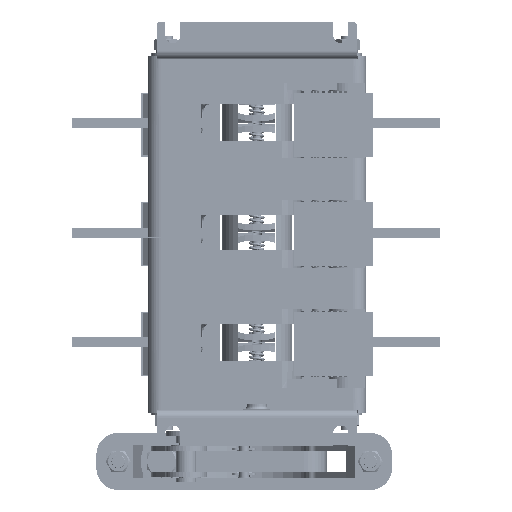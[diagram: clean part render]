
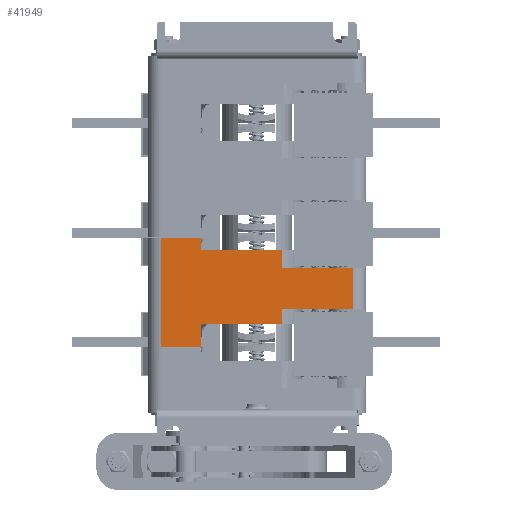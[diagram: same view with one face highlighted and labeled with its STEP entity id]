
A CAD part, front view. The second image highlights one B-rep face of the part: STEP entity #41949.
In plain terms, the highlighted planar face has unit normal (0, -1, 0).
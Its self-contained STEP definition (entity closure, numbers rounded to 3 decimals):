
#314 = CARTESIAN_POINT ( 'NONE',  ( -33., -27., -32.5 ) ) ;
#502 = DIRECTION ( 'NONE',  ( -1., 0., 0. ) ) ;
#1158 = VERTEX_POINT ( 'NONE', #20020 ) ;
#1535 = CARTESIAN_POINT ( 'NONE',  ( 15., -27., 14.5 ) ) ;
#1649 = LINE ( 'NONE', #21562, #11532 ) ;
#1730 = FACE_OUTER_BOUND ( 'NONE', #47150, .T. ) ;
#2487 = CARTESIAN_POINT ( 'NONE',  ( -33., -27., -19. ) ) ;
#2625 = CARTESIAN_POINT ( 'NONE',  ( 15., -27., -10. ) ) ;
#2700 = CARTESIAN_POINT ( 'NONE',  ( -57., -27., -32.5 ) ) ;
#3797 = VERTEX_POINT ( 'NONE', #314 ) ;
#3848 = LINE ( 'NONE', #33572, #50548 ) ;
#4320 = LINE ( 'NONE', #67855, #55454 ) ;
#5612 = ORIENTED_EDGE ( 'NONE', *, *, #53294, .F. ) ;
#5769 = VERTEX_POINT ( 'NONE', #57518 ) ;
#6611 = PLANE ( 'NONE',  #60873 ) ;
#8788 = CARTESIAN_POINT ( 'NONE',  ( -57., -27., 25. ) ) ;
#9168 = CARTESIAN_POINT ( 'NONE',  ( 57., -27., -10. ) ) ;
#11532 = VECTOR ( 'NONE', #56370, 1000. ) ;
#11658 = CARTESIAN_POINT ( 'NONE',  ( 15., -27., 14.5 ) ) ;
#12626 = DIRECTION ( 'NONE',  ( 0., 0., 1. ) ) ;
#13254 = VECTOR ( 'NONE', #29816, 1000. ) ;
#15292 = VECTOR ( 'NONE', #29967, 1000. ) ;
#15346 = VECTOR ( 'NONE', #46647, 1000. ) ;
#15674 = DIRECTION ( 'NONE',  ( -1., 0., 0. ) ) ;
#15984 = LINE ( 'NONE', #25183, #54544 ) ;
#17529 = CARTESIAN_POINT ( 'NONE',  ( -33., -27., -19. ) ) ;
#17706 = EDGE_CURVE ( 'NONE', #18740, #34488, #44248, .T. ) ;
#17762 = VECTOR ( 'NONE', #41406, 1000. ) ;
#18252 = LINE ( 'NONE', #23854, #39816 ) ;
#18545 = ORIENTED_EDGE ( 'NONE', *, *, #39458, .T. ) ;
#18657 = DIRECTION ( 'NONE',  ( 0., 0., -1. ) ) ;
#18740 = VERTEX_POINT ( 'NONE', #57688 ) ;
#20020 = CARTESIAN_POINT ( 'NONE',  ( 15., -27., 14.5 ) ) ;
#21562 = CARTESIAN_POINT ( 'NONE',  ( -33., -27., 32.5 ) ) ;
#23352 = LINE ( 'NONE', #11658, #15292 ) ;
#23854 = CARTESIAN_POINT ( 'NONE',  ( -57., -27., -32.5 ) ) ;
#23935 = CARTESIAN_POINT ( 'NONE',  ( -57., -27., 25. ) ) ;
#24351 = LINE ( 'NONE', #17529, #15346 ) ;
#24979 = ORIENTED_EDGE ( 'NONE', *, *, #58578, .F. ) ;
#25183 = CARTESIAN_POINT ( 'NONE',  ( 57., -27., 25. ) ) ;
#26941 = ORIENTED_EDGE ( 'NONE', *, *, #49489, .T. ) ;
#28376 = EDGE_CURVE ( 'NONE', #1158, #46963, #23352, .T. ) ;
#29141 = VERTEX_POINT ( 'NONE', #45393 ) ;
#29162 = VECTOR ( 'NONE', #56213, 1000. ) ;
#29816 = DIRECTION ( 'NONE',  ( 0., 0., 1. ) ) ;
#29857 = VERTEX_POINT ( 'NONE', #30764 ) ;
#29967 = DIRECTION ( 'NONE',  ( 1., 0., 0. ) ) ;
#30764 = CARTESIAN_POINT ( 'NONE',  ( -57., -27., 32.5 ) ) ;
#33572 = CARTESIAN_POINT ( 'NONE',  ( -57., -27., 25. ) ) ;
#34488 = VERTEX_POINT ( 'NONE', #2625 ) ;
#35685 = EDGE_CURVE ( 'NONE', #29141, #70542, #3848, .T. ) ;
#37575 = LINE ( 'NONE', #53614, #13254 ) ;
#37721 = LINE ( 'NONE', #8788, #71788 ) ;
#38414 = EDGE_CURVE ( 'NONE', #29857, #39584, #37721, .T. ) ;
#39299 = ORIENTED_EDGE ( 'NONE', *, *, #72445, .F. ) ;
#39458 = EDGE_CURVE ( 'NONE', #3797, #71161, #37575, .T. ) ;
#39567 = DIRECTION ( 'NONE',  ( 1., 0., 0. ) ) ;
#39584 = VERTEX_POINT ( 'NONE', #2700 ) ;
#39816 = VECTOR ( 'NONE', #502, 1000. ) ;
#41293 = ORIENTED_EDGE ( 'NONE', *, *, #67885, .F. ) ;
#41406 = DIRECTION ( 'NONE',  ( 0., 0., 1. ) ) ;
#41949 = ADVANCED_FACE ( 'NONE', ( #1730 ), #6611, .F. ) ;
#41977 = ORIENTED_EDGE ( 'NONE', *, *, #38414, .T. ) ;
#43713 = VERTEX_POINT ( 'NONE', #9168 ) ;
#44248 = LINE ( 'NONE', #61587, #60342 ) ;
#45393 = CARTESIAN_POINT ( 'NONE',  ( -33., -27., 25. ) ) ;
#46647 = DIRECTION ( 'NONE',  ( -1., 0., 0. ) ) ;
#46963 = VERTEX_POINT ( 'NONE', #50004 ) ;
#47150 = EDGE_LOOP ( 'NONE', ( #63727, #26941, #55061, #24979, #41293, #41977, #58724, #18545, #5612, #48749, #73018, #39299 ) ) ;
#48749 = ORIENTED_EDGE ( 'NONE', *, *, #17706, .T. ) ;
#49489 = EDGE_CURVE ( 'NONE', #1158, #70542, #64378, .T. ) ;
#50004 = CARTESIAN_POINT ( 'NONE',  ( 57., -27., 14.5 ) ) ;
#50548 = VECTOR ( 'NONE', #39567, 1000. ) ;
#52474 = DIRECTION ( 'NONE',  ( 0., 1., 0. ) ) ;
#53294 = EDGE_CURVE ( 'NONE', #18740, #71161, #24351, .T. ) ;
#53614 = CARTESIAN_POINT ( 'NONE',  ( -33., -27., -32.5 ) ) ;
#54544 = VECTOR ( 'NONE', #18657, 1000. ) ;
#54555 = EDGE_CURVE ( 'NONE', #3797, #39584, #18252, .T. ) ;
#54892 = DIRECTION ( 'NONE',  ( 0., 0., -1. ) ) ;
#55061 = ORIENTED_EDGE ( 'NONE', *, *, #35685, .F. ) ;
#55454 = VECTOR ( 'NONE', #15674, 1000. ) ;
#55532 = DIRECTION ( 'NONE',  ( 0., 0., 1. ) ) ;
#55695 = CARTESIAN_POINT ( 'NONE',  ( -57., -27., 32.5 ) ) ;
#56213 = DIRECTION ( 'NONE',  ( 1., 0., 0. ) ) ;
#56370 = DIRECTION ( 'NONE',  ( 0., 0., -1. ) ) ;
#57518 = CARTESIAN_POINT ( 'NONE',  ( -33., -27., 32.5 ) ) ;
#57688 = CARTESIAN_POINT ( 'NONE',  ( 15., -27., -19. ) ) ;
#58470 = CARTESIAN_POINT ( 'NONE',  ( 15., -27., 25. ) ) ;
#58578 = EDGE_CURVE ( 'NONE', #5769, #29141, #1649, .T. ) ;
#58724 = ORIENTED_EDGE ( 'NONE', *, *, #54555, .F. ) ;
#59639 = LINE ( 'NONE', #55695, #29162 ) ;
#60342 = VECTOR ( 'NONE', #55532, 1000. ) ;
#60873 = AXIS2_PLACEMENT_3D ( 'NONE', #23935, #52474, #12626 ) ;
#61587 = CARTESIAN_POINT ( 'NONE',  ( 15., -27., -19. ) ) ;
#63727 = ORIENTED_EDGE ( 'NONE', *, *, #28376, .F. ) ;
#64378 = LINE ( 'NONE', #1535, #17762 ) ;
#67855 = CARTESIAN_POINT ( 'NONE',  ( 15., -27., -10. ) ) ;
#67885 = EDGE_CURVE ( 'NONE', #29857, #5769, #59639, .T. ) ;
#69367 = EDGE_CURVE ( 'NONE', #43713, #34488, #4320, .T. ) ;
#70542 = VERTEX_POINT ( 'NONE', #58470 ) ;
#71161 = VERTEX_POINT ( 'NONE', #2487 ) ;
#71788 = VECTOR ( 'NONE', #54892, 1000. ) ;
#72445 = EDGE_CURVE ( 'NONE', #46963, #43713, #15984, .T. ) ;
#73018 = ORIENTED_EDGE ( 'NONE', *, *, #69367, .F. ) ;
